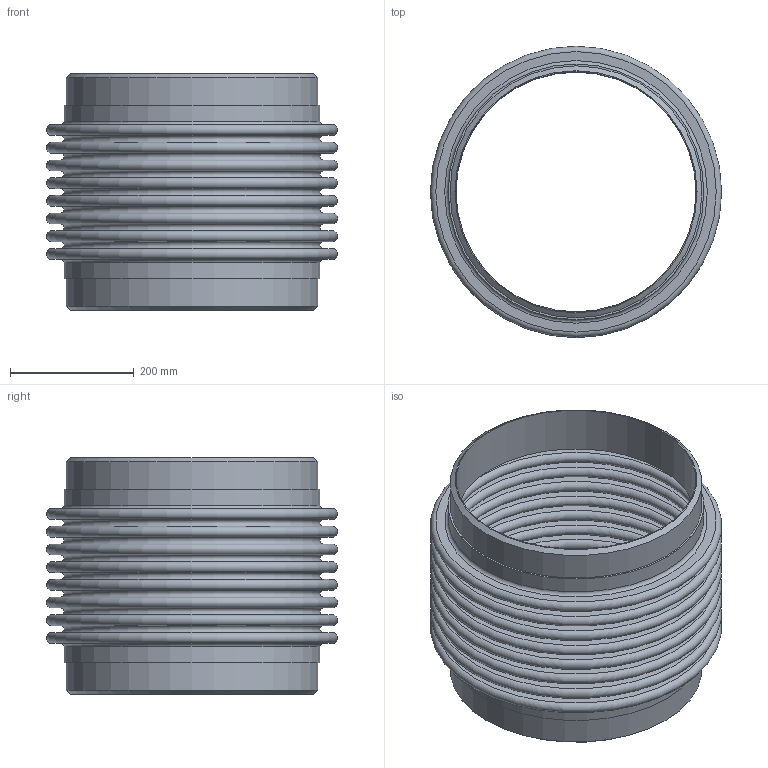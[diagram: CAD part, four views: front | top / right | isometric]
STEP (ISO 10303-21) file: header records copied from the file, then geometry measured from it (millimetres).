
FILE_DESCRIPTION(/* description */ ('EXPANSION JOINT,SINGLE, WELD ENDS,4 INCH NOMINAL'),/* implementation_level */ '2;1');
FILE_NAME(/* name */ 'US-16-300S- WELD-ENDS.stp',/* time_stamp */ '2026-07-28T11:12:53-05:00',/* author */ ('jorgef'),/* organization */ (''),/* preprocessor_version */ 'ST-DEVELOPER v20.1',/* originating_system */ 'Autodesk Inventor 2026',/* authorisation */ '');
FILE_SCHEMA (('AUTOMOTIVE_DESIGN { 1 0 10303 214 3 1 1 }'));
Length unit declared in the file: inch
Products named in the file (3): SINGLE STOCK  BELLOW WELDED ENDS  16- 300 PSIG; STOCK BELLOW - US-16-8-300S; PIPE- 16 -300 PSIG
Assembly tree (3 placements, depth 2):
  SINGLE STOCK  BELLOW WELDED ENDS  16- 300 PSIG
    STOCK BELLOW - US-16-8-300S
    PIPE- 16 -300 PSIG  x2
Bounding box: 469.9 x 469.9 x 381 mm (x, y, z)
Volume: 4422323.4 mm3; surface area: 2194847.5 mm2
Topology: 5 solids, 5 shells, 86 faces, 132 edges, 89 vertices
Faces by surface type: plane 42, torus 34, cylinder 8, cone 2
Full cylindrical faces by diameter (mm): 387.35 x2, 406.4 x4, 412.496 x2
Entity records: 2033 total; most frequent: DIRECTION 413, CARTESIAN_POINT 293, ORIENTED_EDGE 246, AXIS2_PLACEMENT_3D 203, EDGE_CURVE 123, EDGE_LOOP 121, CIRCLE 116, VERTEX_POINT 82
